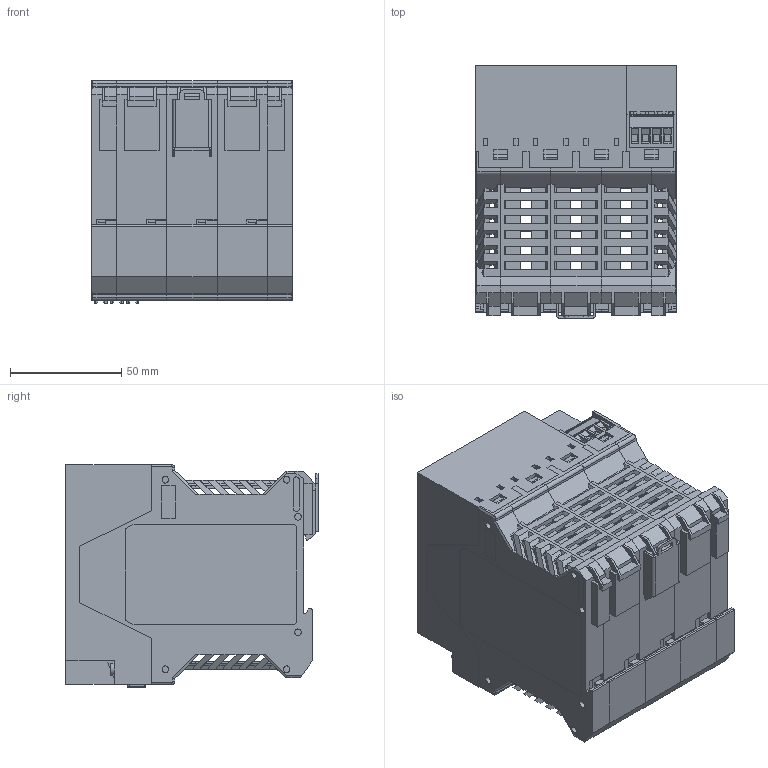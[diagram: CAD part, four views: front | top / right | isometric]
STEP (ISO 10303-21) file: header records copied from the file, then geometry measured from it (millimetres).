
FILE_DESCRIPTION(('STEP AP242'), '1');
FILE_NAME('ﾈﾏﾈ ﾌﾅ90', '', ('UNSPECIFIED'), ('UNSPECIFIED'), 'C3D Converter', 'C3D Toolkit', '');
FILE_SCHEMA(('AP242_MANAGED_MODEL_BASED_3D_ENGINEERING_MIM_LF { 1 0 10303 442 1 1 4 }'));
Length unit declared in the file: millimetre
Products named in the file (12): ДИГ.436235.002 СБ; ME_45_UTM_H.Select__00294716.1; ME_22.5_UTL_H_H.Select__00392903; ME_22.5_UTR_H_H.Select__00393036; Fussriegel_17.5_L30_H.Select; ME_Verriegelungshaken_H.Select__00446697.1.1
Assembly tree (21 placements, depth 3):
  ДИГ.436235.002 СБ
    (unnamed)
      ME_45_UTM_H.Select__00294716.1  x3
      ME_22.5_UTL_H_H.Select__00392903
      ME_22.5_UTR_H_H.Select__00393036
      Fussriegel_17.5_L30_H.Select
      ME_Verriegelungshaken_H.Select__00446697.1.1  x8
    (unnamed)
    (unnamed)
    (unnamed)
    (unnamed)  x2
    (unnamed)
Bounding box: 90.4 x 113.6 x 100.32 mm (x, y, z)
Volume: 143245.5 mm3; surface area: 158844.5 mm2
Topology: 20 solids, 20 shells, 3712 faces, 10983 edges, 7282 vertices
Faces by surface type: plane 3408, cylinder 277, torus 14, cone 13
Full cylindrical faces by diameter (mm): 1.4 x4, 1.5 x3, 2 x24, 2.8 x4, 3 x20, 3.783 x4, 4 x7, 5.2 x3
Entity records: 120839 total; most frequent: CARTESIAN_POINT 17988, ORIENTED_EDGE 17182, DIRECTION 14878, EDGE_CURVE 8591, LINE 7942, VECTOR 7942, VERTEX_POINT 5738, AXIS2_PLACEMENT_3D 3468
